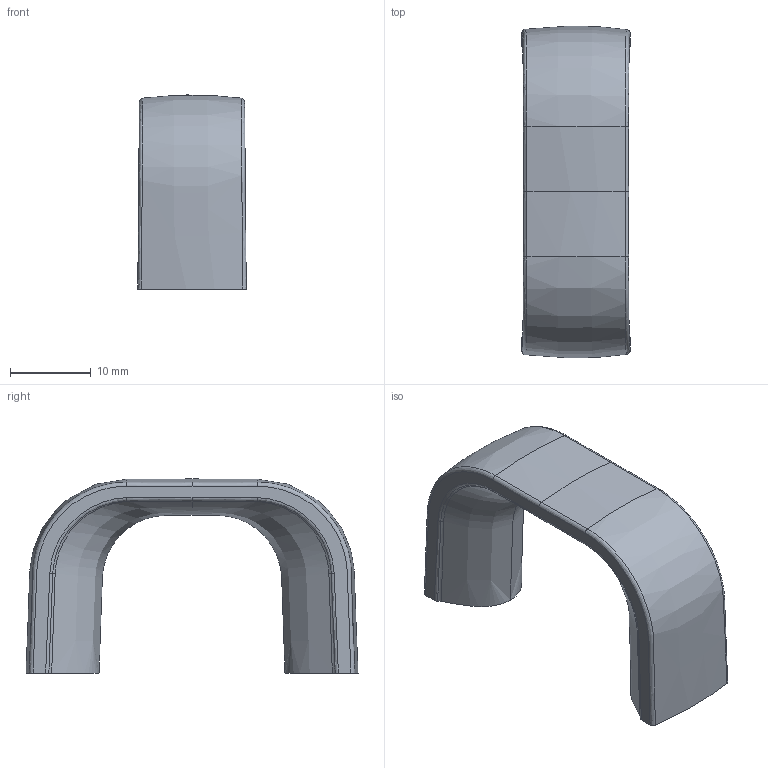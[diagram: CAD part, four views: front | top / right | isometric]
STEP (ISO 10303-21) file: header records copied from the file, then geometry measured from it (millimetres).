
FILE_DESCRIPTION( ( 'Unknown' ), '1' );
FILE_NAME( 'C:/Users/GeorgeH/Desktop/8359-40_3D/8359-40.stp', 'Unknown', ( 'Unknown' ), ( 'Unknown' ), 'PSStep 16.0.42', 'Unknown', ' ' );
FILE_SCHEMA( ( 'AUTOMOTIVE_DESIGN { 1 0 10303 214 1 1 1 1 }' ) );
Length unit declared in the file: millimetre
Products named in the file (1): 1
Bounding box: 13.41 x 41.05 x 24 mm (x, y, z)
Volume: 4878.1 mm3; surface area: 2903.7 mm2
Topology: 1 solids, 1 shells, 50 faces, 127 edges, 81 vertices
Faces by surface type: bspline 40, plane 6, cylinder 4
Full cylindrical faces by diameter (mm): 3.3 x2
Entity records: 9451 total; most frequent: CARTESIAN_POINT 8164, ORIENTED_EDGE 246, EDGE_CURVE 123, DIRECTION 84, B_SPLINE_CURVE_WITH_KNOTS 84, VERTEX_POINT 79, EDGE_LOOP 54, FACE_OUTER_BOUND 52
